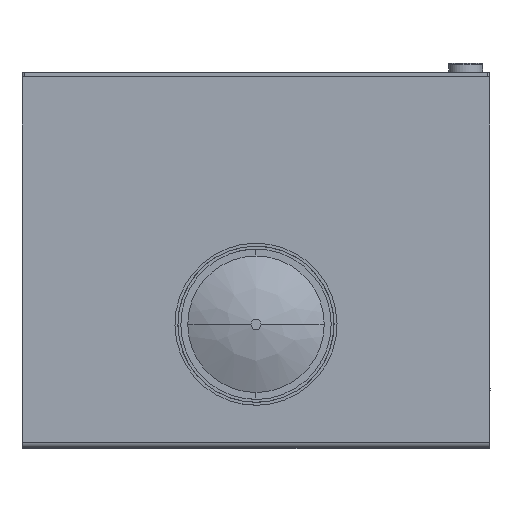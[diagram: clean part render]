
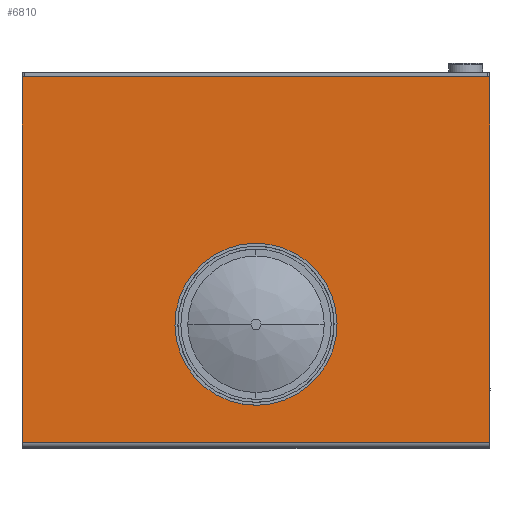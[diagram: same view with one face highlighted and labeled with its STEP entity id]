
A CAD part, top view. The second image highlights one B-rep face of the part: STEP entity #6810.
In plain terms, the highlighted planar face has unit normal (0, 0, 1) as drawn and (-1, 0, 0) by its records, which use the part's own axes.
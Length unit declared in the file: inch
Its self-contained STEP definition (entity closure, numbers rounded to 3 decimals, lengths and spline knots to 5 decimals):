
#124 = CARTESIAN_POINT ( 'NONE',  ( -0.375, 37.62, 0. ) ) ;
#707 = DIRECTION ( 'NONE',  ( 0., 0., -1. ) ) ;
#737 = CARTESIAN_POINT ( 'NONE',  ( -0.375, 12.25, 24. ) ) ;
#742 = DIRECTION ( 'NONE',  ( 1., 0., 0. ) ) ;
#1140 = CARTESIAN_POINT ( 'NONE',  ( -0.375, 0.125, 0. ) ) ;
#1218 = AXIS2_PLACEMENT_3D ( 'NONE', #737, #7067, #2139 ) ;
#1348 = CARTESIAN_POINT ( 'NONE',  ( -0.375, 12.25, 17. ) ) ;
#1375 = ORIENTED_EDGE ( 'NONE', *, *, #7959, .F. ) ;
#1754 = EDGE_CURVE ( 'NONE', #5224, #7610, #6115, .T. ) ;
#1895 = CARTESIAN_POINT ( 'NONE',  ( -0.375, 12.25, 24. ) ) ;
#2139 = DIRECTION ( 'NONE',  ( 0., 0., 1. ) ) ;
#2264 = DIRECTION ( 'NONE',  ( 0., 0., -1. ) ) ;
#2358 = ORIENTED_EDGE ( 'NONE', *, *, #8172, .F. ) ;
#2482 = VERTEX_POINT ( 'NONE', #1140 ) ;
#2643 = DIRECTION ( 'NONE',  ( 0., 0., 1. ) ) ;
#2646 = VERTEX_POINT ( 'NONE', #6317 ) ;
#2682 = VECTOR ( 'NONE', #8829, 39.37008 ) ;
#3143 = CARTESIAN_POINT ( 'NONE',  ( -0.375, 0., 0. ) ) ;
#3186 = EDGE_CURVE ( 'NONE', #7610, #5224, #7810, .T. ) ;
#3358 = CARTESIAN_POINT ( 'NONE',  ( -0.375, 0., 48. ) ) ;
#3442 = ORIENTED_EDGE ( 'NONE', *, *, #4138, .T. ) ;
#3747 = ORIENTED_EDGE ( 'NONE', *, *, #1754, .F. ) ;
#3884 = CARTESIAN_POINT ( 'NONE',  ( -0.375, 0.125, 48. ) ) ;
#4131 = ORIENTED_EDGE ( 'NONE', *, *, #3186, .F. ) ;
#4138 = EDGE_CURVE ( 'NONE', #8718, #2482, #6028, .T. ) ;
#4205 = CARTESIAN_POINT ( 'NONE',  ( -0.375, 12.25, 31. ) ) ;
#4347 = VECTOR ( 'NONE', #2264, 39.37008 ) ;
#4859 = VERTEX_POINT ( 'NONE', #8786 ) ;
#4887 = EDGE_LOOP ( 'NONE', ( #4131, #3747 ) ) ;
#4925 = VECTOR ( 'NONE', #8055, 39.37008 ) ;
#5016 = FACE_OUTER_BOUND ( 'NONE', #6722, .T. ) ;
#5224 = VERTEX_POINT ( 'NONE', #1348 ) ;
#5331 = LINE ( 'NONE', #5549, #6868 ) ;
#5540 = DIRECTION ( 'NONE',  ( -1., 0., 0. ) ) ;
#5549 = CARTESIAN_POINT ( 'NONE',  ( -0.375, 0., 48. ) ) ;
#6028 = LINE ( 'NONE', #3143, #4925 ) ;
#6108 = LINE ( 'NONE', #6454, #4347 ) ;
#6115 = CIRCLE ( 'NONE', #1218, 7. ) ;
#6317 = CARTESIAN_POINT ( 'NONE',  ( -0.375, 0.125, 48. ) ) ;
#6454 = CARTESIAN_POINT ( 'NONE',  ( -0.375, 37.62, 48. ) ) ;
#6722 = EDGE_LOOP ( 'NONE', ( #3442, #2358, #1375, #8475 ) ) ;
#6810 = ADVANCED_FACE ( 'NONE', ( #6897, #5016 ), #8456, .F. ) ;
#6868 = VECTOR ( 'NONE', #7017, 39.37008 ) ;
#6897 = FACE_BOUND ( 'NONE', #4887, .T. ) ;
#7001 = EDGE_CURVE ( 'NONE', #4859, #8718, #6108, .T. ) ;
#7017 = DIRECTION ( 'NONE',  ( 0., -1., 0. ) ) ;
#7067 = DIRECTION ( 'NONE',  ( -1., 0., 0. ) ) ;
#7610 = VERTEX_POINT ( 'NONE', #4205 ) ;
#7728 = LINE ( 'NONE', #3884, #2682 ) ;
#7810 = CIRCLE ( 'NONE', #8004, 7. ) ;
#7959 = EDGE_CURVE ( 'NONE', #4859, #2646, #5331, .T. ) ;
#8004 = AXIS2_PLACEMENT_3D ( 'NONE', #1895, #5540, #2643 ) ;
#8055 = DIRECTION ( 'NONE',  ( 0., -1., 0. ) ) ;
#8172 = EDGE_CURVE ( 'NONE', #2646, #2482, #7728, .T. ) ;
#8456 = PLANE ( 'NONE',  #8993 ) ;
#8475 = ORIENTED_EDGE ( 'NONE', *, *, #7001, .T. ) ;
#8718 = VERTEX_POINT ( 'NONE', #124 ) ;
#8786 = CARTESIAN_POINT ( 'NONE',  ( -0.375, 37.62, 48. ) ) ;
#8829 = DIRECTION ( 'NONE',  ( 0., 0., -1. ) ) ;
#8993 = AXIS2_PLACEMENT_3D ( 'NONE', #3358, #742, #707 ) ;
